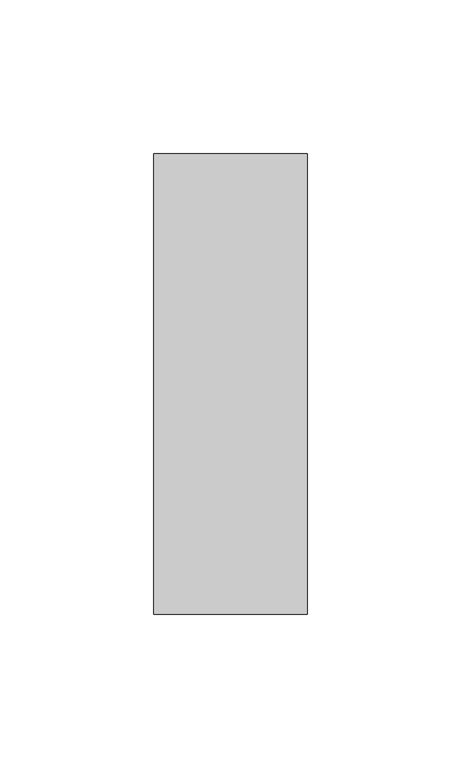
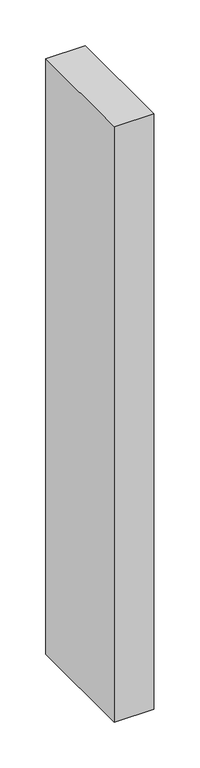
"""IFC4 building model written with IfcOpenShell, lengths in millimetres: member geometry, Прямоугольный импост : 50 x 150 мм."""

import ifcopenshell
import ifcopenshell.guid

model = None  # the IFC model being written
_history = None  # IfcOwnerHistory: only IFC2X3 demands one
_inside = {}  # id of a spatial element -> (the spatial element, [elements in it])
_under = {}  # id of a project, library or spatial element -> (it, [spatial elements below it])
_declared = {}  # id of a project -> (the project, [libraries it declares])
_typed = {}  # id of a type object -> (the type object, [elements of that type])
_made_of = {}  # id of a material, layer set ... -> (it, [elements and type objects made of it])


def new_model(schema):
    """Start an empty IFC model of exactly this schema.

    Asked for "IFC4X3", IfcOpenShell would pick the latest addendum, in which some entities
    have other attributes; the version numbers below select the first issue.
    IFC2X3 requires an IfcOwnerHistory on every rooted entity: one is made here for all.
    """
    global model, _history
    if schema == "IFC4X3":
        model = ifcopenshell.file(schema_version=(4, 3, 0, 0))
    else:
        model = ifcopenshell.file(schema=schema)
    _inside.clear()
    _under.clear()
    _declared.clear()
    _typed.clear()
    _made_of.clear()
    _history = None
    if model.schema == "IFC2X3":
        org = make("IfcOrganization", Name="unknown")
        user = make(
            "IfcPersonAndOrganization",
            ThePerson=make("IfcPerson", FamilyName="unknown"),
            TheOrganization=org,
        )
        app = make(
            "IfcApplication",
            ApplicationDeveloper=org,
            Version="unknown",
            ApplicationFullName="unknown",
            ApplicationIdentifier="unknown",
        )
        _history = make(
            "IfcOwnerHistory",
            OwningUser=user,
            OwningApplication=app,
            ChangeAction="ADDED",
            CreationDate=0,
        )
    return model


def make(cls, **values):
    """One entity of the class cls with the attributes given. An attribute that is None is left unset."""
    return model.create_entity(
        cls, **{name: value for name, value in values.items() if value is not None}
    )


def rooted(cls, **values):
    """An entity with a GlobalId (a new one), such as an element, a storey or a relation."""
    return make(cls, GlobalId=ifcopenshell.guid.new(), OwnerHistory=_history, **values)


def si_unit(unit_type, name, prefix=None):
    """IfcSIUnit, for example si_unit("LENGTHUNIT", "METRE", prefix="MILLI")."""
    return make("IfcSIUnit", UnitType=unit_type, Prefix=prefix, Name=name)


def assignment(units):
    """IfcUnitAssignment: the units of a project."""
    return None if units is None else make("IfcUnitAssignment", Units=units)


def point(xyz):
    """IfcCartesianPoint."""
    return None if xyz is None else make("IfcCartesianPoint", Coordinates=xyz)


def direction(xyz):
    """IfcDirection."""
    return None if xyz is None else make("IfcDirection", DirectionRatios=xyz)


def frame(location, z_axis=None, x_axis=None):
    """IfcAxis2Placement3D, a coordinate frame: its origin and axes. An axis left out is left unset."""
    return make(
        "IfcAxis2Placement3D",
        Location=point(location),
        Axis=direction(z_axis),
        RefDirection=direction(x_axis),
    )


def origin():
    """The frame at (0, 0, 0) with its axes left unset."""
    return frame((0.0, 0.0, 0.0))


def place(relative_to, where):
    """IfcLocalPlacement: puts the frame where relative to a parent placement (None: the world)."""
    return make(
        "IfcLocalPlacement", PlacementRelTo=relative_to, RelativePlacement=where
    )


def context(
    kind, dimensions, precision=None, world=None, true_north=None, identifier=None
):
    """IfcGeometricRepresentationContext, for example the 3D "Model" context."""
    return make(
        "IfcGeometricRepresentationContext",
        ContextIdentifier=identifier,
        ContextType=kind,
        CoordinateSpaceDimension=dimensions,
        Precision=precision,
        WorldCoordinateSystem=world,
        TrueNorth=true_north,
    )


def project(units=None, contexts=None):
    """IfcProject with its units and contexts."""
    return rooted(
        "IfcProject",
        Name="project",
        RepresentationContexts=contexts,
        UnitsInContext=assignment(units),
    )


def spatial(cls, under=None, at=None, **own):
    """A site, building, storey or space (cls), placed at a placement, below another one or the project."""
    s = rooted(cls, ObjectPlacement=at, **own)
    if under is not None:
        _under.setdefault(under.id(), (under, []))[1].append(s)
    return s


def polyline(points):
    """IfcPolyline through the points."""
    return make("IfcPolyline", Points=[point(p) for p in points])


def outline(outer, holes=None, kind="AREA"):
    """IfcArbitraryClosedProfileDef: a profile drawn as a closed curve; with holes, ...WithVoids."""
    if holes is None:
        return make("IfcArbitraryClosedProfileDef", ProfileType=kind, OuterCurve=outer)
    return make(
        "IfcArbitraryProfileDefWithVoids",
        ProfileType=kind,
        OuterCurve=outer,
        InnerCurves=holes,
    )


def extrude(swept, where, along, depth):
    """IfcExtrudedAreaSolid: the profile swept, set in the frame where, extruded along a direction by depth."""
    return make(
        "IfcExtrudedAreaSolid",
        SweptArea=swept,
        Position=where,
        ExtrudedDirection=direction(along),
        Depth=depth,
    )


def shape(context_of_items, identifier, shape_type, items):
    """IfcShapeRepresentation: the items that make up one representation, for example the "Body"."""
    return make(
        "IfcShapeRepresentation",
        ContextOfItems=context_of_items,
        RepresentationIdentifier=identifier,
        RepresentationType=shape_type,
        Items=items,
    )


def source(mapping_origin, context_of_items, identifier, shape_type, items):
    """IfcRepresentationMap: a shape defined once, which mapped items show again and again."""
    return make(
        "IfcRepresentationMap",
        MappingOrigin=mapping_origin,
        MappedRepresentation=shape(context_of_items, identifier, shape_type, items),
    )


def transform(
    local_origin,
    x_axis=None,
    y_axis=None,
    z_axis=None,
    scale=None,
    scale2=None,
    scale3=None,
    uniform=True,
):
    """IfcCartesianTransformationOperator3D, or its non-uniform kind. x_axis, y_axis, z_axis: its Axis1, 2, 3."""
    if uniform:
        return make(
            "IfcCartesianTransformationOperator3D",
            Axis1=direction(x_axis),
            Axis2=direction(y_axis),
            LocalOrigin=point(local_origin),
            Scale=scale,
            Axis3=direction(z_axis),
        )
    return make(
        "IfcCartesianTransformationOperator3DnonUniform",
        Axis1=direction(x_axis),
        Axis2=direction(y_axis),
        LocalOrigin=point(local_origin),
        Scale=scale,
        Axis3=direction(z_axis),
        Scale2=scale2,
        Scale3=scale3,
    )


def mapped(mapping_source, mapping_target):
    """IfcMappedItem: shows the shape of a source again, moved by a transform."""
    return make(
        "IfcMappedItem", MappingSource=mapping_source, MappingTarget=mapping_target
    )


def made_of(thing, what):
    """Note that an element or type object is made of a material, layer set ...; save() writes the relation."""
    if what is not None:
        _made_of.setdefault(what.id(), (what, []))[1].append(thing)
    return thing


def element(
    cls,
    number,
    at=None,
    inside=None,
    cuts=None,
    type_object=None,
    material=None,
    context=None,
    identifier="Body",
    shape_type=None,
    held_by="IfcProductDefinitionShape",
    body=None,
    shapes=None,
    **own,
):
    """One element of the class cls, such as IfcWall. Its Tag is "e" and its number.

    at: its placement. inside: the storey or other place that contains it. cuts: it is an
    opening in that element (IfcRelVoidsElement). A single representation is given by context,
    identifier, shape_type and body (its items); several are given by shapes. held_by: the class
    of the entity that holds the representations. save() writes the other relations.
    """
    e = rooted(cls, Tag="e%d" % number, ObjectPlacement=at, **own)
    if body is not None:
        shapes = [shape(context, identifier, shape_type, body)]
    if shapes is not None:
        e.Representation = make(held_by, Representations=shapes)
    if inside is not None:
        _inside.setdefault(inside.id(), (inside, []))[1].append(e)
    if cuts is not None:
        rooted(
            "IfcRelVoidsElement", RelatingBuildingElement=cuts, RelatedOpeningElement=e
        )
    if type_object is not None:
        _typed.setdefault(type_object.id(), (type_object, []))[1].append(e)
    return made_of(e, material)


def aggregate(whole, parts):
    """IfcRelAggregates: a whole, such as a stair, and the parts it consists of."""
    return rooted("IfcRelAggregates", RelatingObject=whole, RelatedObjects=parts)


def save(model, path):
    """Write the relations noted so far, then the file.

    IfcRelAggregates (storeys below a building ...), IfcRelContainedInSpatialStructure (elements
    in a storey), IfcRelDefinesByType, IfcRelAssociatesMaterial and IfcRelDeclares: one each for
    every whole, place, type object, material and project.
    """
    for whole, parts in _under.values():
        aggregate(whole, parts)
    for where, things in _inside.values():
        rooted(
            "IfcRelContainedInSpatialStructure",
            RelatedElements=things,
            RelatingStructure=where,
        )
    for kind, things in _typed.values():
        rooted("IfcRelDefinesByType", RelatedObjects=things, RelatingType=kind)
    for what, things in _made_of.values():
        rooted("IfcRelAssociatesMaterial", RelatedObjects=things, RelatingMaterial=what)
    for by, libraries in _declared.values():
        rooted("IfcRelDeclares", RelatingContext=by, RelatedDefinitions=libraries)
    model.write(path)


def member_6d0a594d(model_context):
    return source(origin(), model_context, "Body", "SweptSolid", [
        extrude(outline(polyline([(25.0, 75.0), (25.0, -75.0), (-25.0, -75.0), (-25.0, 75.0), (25.0, 75.0)])), frame((0.0, 0.0, -795.3629318), z_axis=(0.0, 0.0, 1.0), x_axis=(1.0, 0.0, 0.0)), (0.0, 0.0, 1.0), 795.3629318),
    ])


if __name__ == "__main__":
    model = new_model("IFC4")
    model_context = context("Model", 3, world=origin())
    ifc_project = project(units=[si_unit("LENGTHUNIT", "METRE", prefix="MILLI")], contexts=[model_context])
    site = spatial("IfcSite", under=ifc_project)
    building = spatial("IfcBuilding", under=site)
    placement = place(None, origin())
    member_shape = member_6d0a594d(model_context)
    element("IfcMember", 1, ObjectType="Прямоугольный импост : 50 x 150 мм", at=placement, inside=building, context=model_context, shape_type="MappedRepresentation", body=[
        mapped(member_shape, transform((0.0, 0.0, 0.0), x_axis=(1.0, 0.0, 0.0), y_axis=(0.0, 1.0, 0.0), z_axis=(0.0, 0.0, 1.0))),
    ])
    save(model, "model.ifc")
